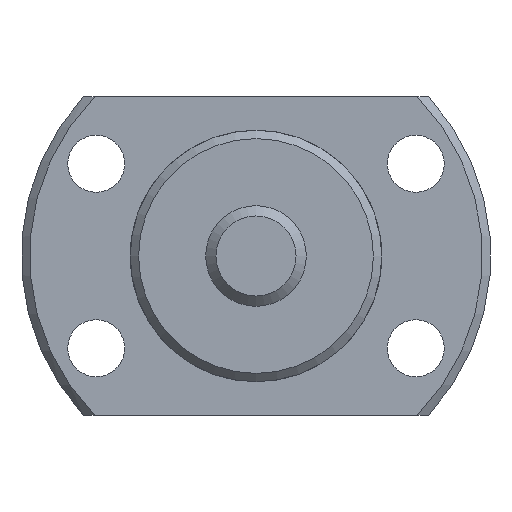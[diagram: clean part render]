
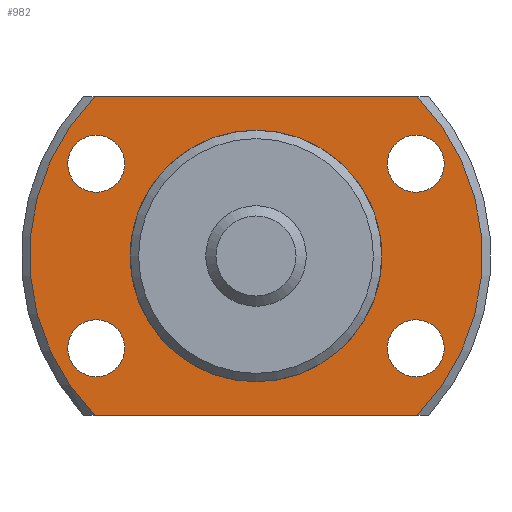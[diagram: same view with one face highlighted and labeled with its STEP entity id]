
A CAD part, left-side view. The second image highlights one B-rep face of the part: STEP entity #982.
In plain terms, the highlighted planar face has unit normal (-1, 0, 0).
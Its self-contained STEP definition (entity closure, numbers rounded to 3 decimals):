
#85=LINE('',#1725,#129);
#86=LINE('',#1729,#130);
#129=VECTOR('',#1361,1000.);
#130=VECTOR('',#1364,1000.);
#293=ORIENTED_EDGE('',*,*,#510,.T.);
#294=ORIENTED_EDGE('',*,*,#511,.T.);
#295=ORIENTED_EDGE('',*,*,#512,.T.);
#296=ORIENTED_EDGE('',*,*,#513,.T.);
#297=ORIENTED_EDGE('',*,*,#499,.F.);
#298=ORIENTED_EDGE('',*,*,#514,.F.);
#299=ORIENTED_EDGE('',*,*,#515,.F.);
#300=ORIENTED_EDGE('',*,*,#516,.F.);
#301=ORIENTED_EDGE('',*,*,#494,.T.);
#494=EDGE_CURVE('',#609,#609,#676,.T.);
#499=EDGE_CURVE('',#612,#613,#678,.T.);
#510=EDGE_CURVE('',#622,#622,#684,.T.);
#511=EDGE_CURVE('',#623,#623,#685,.T.);
#512=EDGE_CURVE('',#624,#624,#686,.T.);
#513=EDGE_CURVE('',#625,#625,#687,.T.);
#514=EDGE_CURVE('',#626,#612,#85,.T.);
#515=EDGE_CURVE('',#627,#626,#688,.T.);
#516=EDGE_CURVE('',#613,#627,#86,.T.);
#609=VERTEX_POINT('',#1671);
#612=VERTEX_POINT('',#1682);
#613=VERTEX_POINT('',#1684);
#622=VERTEX_POINT('',#1718);
#623=VERTEX_POINT('',#1720);
#624=VERTEX_POINT('',#1722);
#625=VERTEX_POINT('',#1724);
#626=VERTEX_POINT('',#1726);
#627=VERTEX_POINT('',#1728);
#676=CIRCLE('',#1100,7.25);
#678=CIRCLE('',#1103,13.5);
#684=CIRCLE('',#1114,1.7);
#685=CIRCLE('',#1115,1.7);
#686=CIRCLE('',#1116,1.7);
#687=CIRCLE('',#1117,1.7);
#688=CIRCLE('',#1118,13.5);
#760=EDGE_LOOP('',(#293));
#761=EDGE_LOOP('',(#294));
#762=EDGE_LOOP('',(#295));
#763=EDGE_LOOP('',(#296));
#764=EDGE_LOOP('',(#297,#298,#299,#300));
#765=EDGE_LOOP('',(#301));
#864=FACE_BOUND('',#760,.T.);
#865=FACE_BOUND('',#761,.T.);
#866=FACE_BOUND('',#762,.T.);
#867=FACE_BOUND('',#763,.T.);
#868=FACE_BOUND('',#764,.T.);
#869=FACE_BOUND('',#765,.T.);
#931=PLANE('',#1113);
#982=ADVANCED_FACE('',(#864,#865,#866,#867,#868,#869),#931,.F.);
#1100=AXIS2_PLACEMENT_3D('',#1670,#1321,#1322);
#1103=AXIS2_PLACEMENT_3D('',#1683,#1329,#1330);
#1113=AXIS2_PLACEMENT_3D('',#1716,#1351,#1352);
#1114=AXIS2_PLACEMENT_3D('',#1717,#1353,#1354);
#1115=AXIS2_PLACEMENT_3D('',#1719,#1355,#1356);
#1116=AXIS2_PLACEMENT_3D('',#1721,#1357,#1358);
#1117=AXIS2_PLACEMENT_3D('',#1723,#1359,#1360);
#1118=AXIS2_PLACEMENT_3D('',#1727,#1362,#1363);
#1321=DIRECTION('',(1.,0.,0.));
#1322=DIRECTION('',(0.,0.,-1.));
#1329=DIRECTION('',(1.,0.,0.));
#1330=DIRECTION('',(0.,0.,-1.));
#1351=DIRECTION('',(1.,0.,0.));
#1352=DIRECTION('',(0.,0.,-1.));
#1353=DIRECTION('',(1.,0.,0.));
#1354=DIRECTION('',(0.,0.,-1.));
#1355=DIRECTION('',(1.,0.,0.));
#1356=DIRECTION('',(0.,0.,-1.));
#1357=DIRECTION('',(1.,0.,0.));
#1358=DIRECTION('',(0.,0.,-1.));
#1359=DIRECTION('',(1.,0.,0.));
#1360=DIRECTION('',(0.,0.,-1.));
#1361=DIRECTION('',(0.,1.,0.));
#1362=DIRECTION('',(1.,0.,0.));
#1363=DIRECTION('',(0.,0.,-1.));
#1364=DIRECTION('',(0.,-1.,0.));
#1670=CARTESIAN_POINT('',(13.,0.,0.));
#1671=CARTESIAN_POINT('',(13.,0.,-7.25));
#1682=CARTESIAN_POINT('',(13.,9.592,-9.5));
#1683=CARTESIAN_POINT('',(13.,0.,0.));
#1684=CARTESIAN_POINT('',(13.,9.592,9.5));
#1716=CARTESIAN_POINT('',(13.,7.25,0.));
#1717=CARTESIAN_POINT('',(13.,-9.526,-5.5));
#1718=CARTESIAN_POINT('',(13.,-9.526,-7.2));
#1719=CARTESIAN_POINT('',(13.,-9.526,5.5));
#1720=CARTESIAN_POINT('',(13.,-9.526,3.8));
#1721=CARTESIAN_POINT('',(13.,9.526,-5.5));
#1722=CARTESIAN_POINT('',(13.,9.526,-7.2));
#1723=CARTESIAN_POINT('',(13.,9.526,5.5));
#1724=CARTESIAN_POINT('',(13.,9.526,3.8));
#1725=CARTESIAN_POINT('',(13.,-19.,-9.5));
#1726=CARTESIAN_POINT('',(13.,-9.592,-9.5));
#1727=CARTESIAN_POINT('',(13.,0.,0.));
#1728=CARTESIAN_POINT('',(13.,-9.592,9.5));
#1729=CARTESIAN_POINT('',(13.,19.,9.5));
